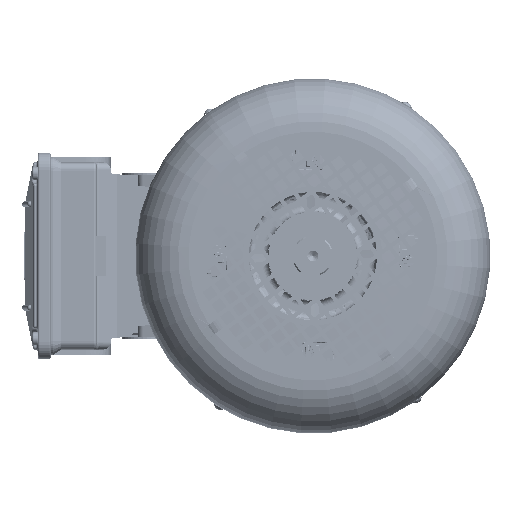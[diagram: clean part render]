
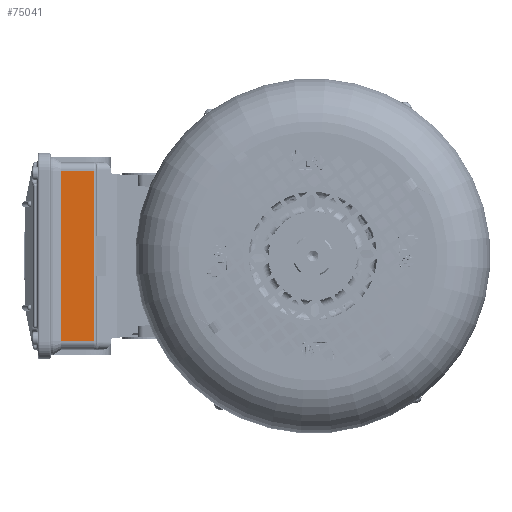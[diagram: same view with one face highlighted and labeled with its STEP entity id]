
A CAD part, left-side view. The second image highlights one B-rep face of the part: STEP entity #75041.
In plain terms, the highlighted planar face has unit normal (-1, 0, 0) as drawn and (1, 0, 0) by its records, which use the part's own axes.
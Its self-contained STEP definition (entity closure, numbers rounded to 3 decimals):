
#26615 = CARTESIAN_POINT ( 'NONE',  ( 92.5, -35.5, -62.5 ) ) ;
#28590 = VECTOR ( 'NONE', #156200, 1000. ) ;
#30177 = EDGE_LOOP ( 'NONE', ( #139043, #131944, #133180, #100211 ) ) ;
#35108 = VERTEX_POINT ( 'NONE', #41927 ) ;
#37189 = VECTOR ( 'NONE', #155513, 1000. ) ;
#41927 = CARTESIAN_POINT ( 'NONE',  ( 92.5, -11.7, 62.5 ) ) ;
#46295 = DIRECTION ( 'NONE',  ( -1., 0., 0. ) ) ;
#47421 = EDGE_CURVE ( 'NONE', #61925, #105916, #147545, .T. ) ;
#48477 = CARTESIAN_POINT ( 'NONE',  ( 92.5, -35.5, -62.5 ) ) ;
#50258 = EDGE_CURVE ( 'NONE', #61925, #35108, #72357, .T. ) ;
#59087 = DIRECTION ( 'NONE',  ( 0., 0., 1. ) ) ;
#61925 = VERTEX_POINT ( 'NONE', #112873 ) ;
#63979 = DIRECTION ( 'NONE',  ( 0., 1., 0. ) ) ;
#67831 = EDGE_CURVE ( 'NONE', #120900, #35108, #89531, .T. ) ;
#69972 = CARTESIAN_POINT ( 'NONE',  ( 92.5, -282.704, -62.5 ) ) ;
#72357 = LINE ( 'NONE', #150240, #149002 ) ;
#75041 = ADVANCED_FACE ( 'NONE', ( #126918 ), #86376, .F. ) ;
#86376 = PLANE ( 'NONE',  #132883 ) ;
#89531 = LINE ( 'NONE', #116974, #127822 ) ;
#100211 = ORIENTED_EDGE ( 'NONE', *, *, #67831, .T. ) ;
#105080 = LINE ( 'NONE', #69972, #28590 ) ;
#105916 = VERTEX_POINT ( 'NONE', #48477 ) ;
#112873 = CARTESIAN_POINT ( 'NONE',  ( 92.5, -35.5, 62.5 ) ) ;
#116974 = CARTESIAN_POINT ( 'NONE',  ( 92.5, -11.7, -62.5 ) ) ;
#120900 = VERTEX_POINT ( 'NONE', #175890 ) ;
#122044 = EDGE_CURVE ( 'NONE', #105916, #120900, #105080, .T. ) ;
#126918 = FACE_OUTER_BOUND ( 'NONE', #30177, .T. ) ;
#127822 = VECTOR ( 'NONE', #59087, 1000. ) ;
#131944 = ORIENTED_EDGE ( 'NONE', *, *, #47421, .T. ) ;
#132435 = CARTESIAN_POINT ( 'NONE',  ( 92.5, -282.704, -62.5 ) ) ;
#132883 = AXIS2_PLACEMENT_3D ( 'NONE', #132435, #46295, #146975 ) ;
#133180 = ORIENTED_EDGE ( 'NONE', *, *, #122044, .T. ) ;
#139043 = ORIENTED_EDGE ( 'NONE', *, *, #50258, .F. ) ;
#146975 = DIRECTION ( 'NONE',  ( 0., 0., 1. ) ) ;
#147545 = LINE ( 'NONE', #26615, #37189 ) ;
#149002 = VECTOR ( 'NONE', #63979, 1000. ) ;
#150240 = CARTESIAN_POINT ( 'NONE',  ( 92.5, -282.704, 62.5 ) ) ;
#155513 = DIRECTION ( 'NONE',  ( 0., 0., -1. ) ) ;
#156200 = DIRECTION ( 'NONE',  ( 0., 1., 0. ) ) ;
#175890 = CARTESIAN_POINT ( 'NONE',  ( 92.5, -11.7, -62.5 ) ) ;
